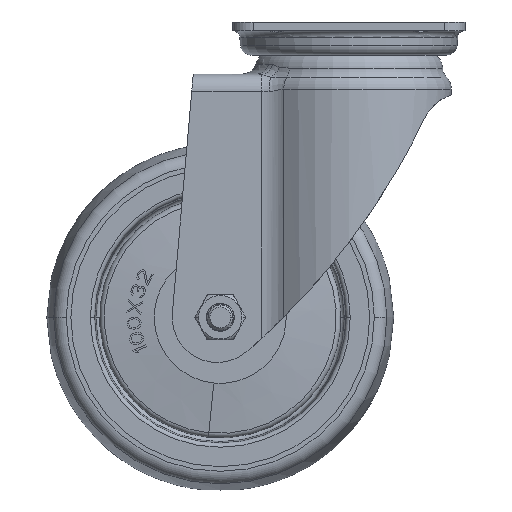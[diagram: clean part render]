
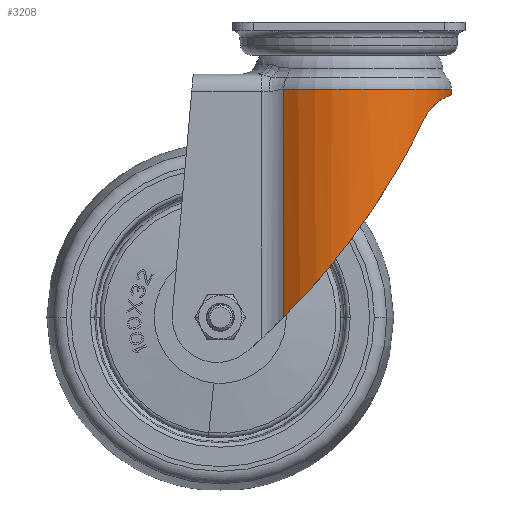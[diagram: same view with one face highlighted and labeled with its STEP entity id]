
A CAD part, front view. The second image highlights one B-rep face of the part: STEP entity #3208.
In plain terms, the highlighted cylindrical face has radius 29.5 mm (diameter 59 mm), a partial arc.
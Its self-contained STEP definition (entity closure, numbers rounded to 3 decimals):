
#2011=CARTESIAN_POINT('',(-21.775,-19.902,
-70.245));
#2012=CARTESIAN_POINT('',(-22.052,-19.599,
-70.824));
#2013=CARTESIAN_POINT('',(-22.676,-18.894,
-71.912));
#2014=CARTESIAN_POINT('',(-23.824,-17.435,
-73.372));
#2015=CARTESIAN_POINT('',(-24.995,-15.718,
-74.5));
#2016=CARTESIAN_POINT('',(-26.089,-13.827,
-75.334));
#2017=CARTESIAN_POINT('',(-27.008,-11.928,
-75.908));
#2018=CARTESIAN_POINT('',(-27.825,-9.892,
-76.337));
#2019=CARTESIAN_POINT('',(-28.561,-7.534,
-76.662));
#2020=CARTESIAN_POINT('',(-29.118,-4.968,
-76.873));
#2021=CARTESIAN_POINT('',(-29.436,-2.433,
-76.979));
#2022=CARTESIAN_POINT('',(-29.535,0.075,
-77.012));
#2023=CARTESIAN_POINT('',(-29.423,2.574,
-76.975));
#2024=CARTESIAN_POINT('',(-29.096,5.087,
-76.866));
#2025=CARTESIAN_POINT('',(-28.537,7.617,
-76.652));
#2026=CARTESIAN_POINT('',(-27.808,9.935,
-76.329));
#2027=CARTESIAN_POINT('',(-26.997,11.953,
-75.901));
#2028=CARTESIAN_POINT('',(-26.08,13.842,
-75.328));
#2029=CARTESIAN_POINT('',(-24.99,15.725,
-74.496));
#2030=CARTESIAN_POINT('',(-23.822,17.438,
-73.37));
#2031=CARTESIAN_POINT('',(-22.675,18.894,
-71.911));
#2032=CARTESIAN_POINT('',(-22.052,19.599,
-70.824));
#2033=CARTESIAN_POINT('',(-21.775,19.902,
-70.245));
#2035=CARTESIAN_POINT('',(0.,-29.5,
-34.531));
#2036=CARTESIAN_POINT('',(-0.973,-29.5,
-35.816));
#2037=CARTESIAN_POINT('',(-2.905,-29.411,
-38.421));
#2038=CARTESIAN_POINT('',(-5.985,-28.935,
-42.812));
#2039=CARTESIAN_POINT('',(-8.467,-28.292,
-46.542));
#2040=CARTESIAN_POINT('',(-10.761,-27.508,
-50.137));
#2041=CARTESIAN_POINT('',(-13.307,-26.383,
-54.324));
#2042=CARTESIAN_POINT('',(-16.016,-24.846,
-59.043));
#2043=CARTESIAN_POINT('',(-18.836,-22.805,
-64.28));
#2044=CARTESIAN_POINT('',(-20.797,-20.972,
-68.203));
#2045=CARTESIAN_POINT('',(-21.775,-19.902,
-70.245));
#2047=CARTESIAN_POINT('',(18.745,-22.778,
-13.039));
#2048=CARTESIAN_POINT('',(18.046,-23.354,
-13.738));
#2049=CARTESIAN_POINT('',(16.63,-24.413,
-15.172));
#2050=CARTESIAN_POINT('',(14.452,-25.758,
-17.445));
#2051=CARTESIAN_POINT('',(12.304,-26.845,
-19.756));
#2052=CARTESIAN_POINT('',(10.186,-27.717,
-22.106));
#2053=CARTESIAN_POINT('',(7.992,-28.429,
-24.616));
#2054=CARTESIAN_POINT('',(5.614,-28.999,
-27.429));
#2055=CARTESIAN_POINT('',(2.937,-29.398,
-30.721));
#2056=CARTESIAN_POINT('',(1.002,-29.5,
-33.209));
#2057=CARTESIAN_POINT('',(0.,-29.5,
-34.531));
#2059=DIRECTION('',(0.,0.,-1.));
#2060=VECTOR('',#2059,65.63);
#2061=CARTESIAN_POINT('',(18.745,-22.778,
-13.039));
#2062=LINE('',#2061,#2060);
#2063=DIRECTION('',(0.,0.,1.));
#2064=VECTOR('',#2063,65.63);
#2065=CARTESIAN_POINT('',(18.745,22.778,-78.67));
#2066=LINE('',#2065,#2064);
#2067=CARTESIAN_POINT('',(0.,29.5,
-34.531));
#2068=CARTESIAN_POINT('',(1.004,29.5,-33.205));
#2069=CARTESIAN_POINT('',(2.945,29.398,-30.711));
#2070=CARTESIAN_POINT('',(5.634,28.995,-27.404));
#2071=CARTESIAN_POINT('',(8.015,28.423,-24.59));
#2072=CARTESIAN_POINT('',(10.204,27.71,-22.085));
#2073=CARTESIAN_POINT('',(12.317,26.839,-19.742));
#2074=CARTESIAN_POINT('',(14.459,25.753,-17.437));
#2075=CARTESIAN_POINT('',(16.633,24.41,-15.169));
#2076=CARTESIAN_POINT('',(18.048,23.353,-13.736));
#2077=CARTESIAN_POINT('',(18.745,22.778,-13.039));
#2079=CARTESIAN_POINT('',(-21.775,19.902,
-70.245));
#2080=CARTESIAN_POINT('',(-20.795,20.975,
-68.198));
#2081=CARTESIAN_POINT('',(-18.829,22.811,
-64.266));
#2082=CARTESIAN_POINT('',(-16.002,24.855,
-59.017));
#2083=CARTESIAN_POINT('',(-13.288,26.394,
-54.291));
#2084=CARTESIAN_POINT('',(-10.728,27.52,
-50.085));
#2085=CARTESIAN_POINT('',(-8.436,28.303,
-46.494));
#2086=CARTESIAN_POINT('',(-5.863,28.961,
-42.632));
#2087=CARTESIAN_POINT('',(-2.836,29.415,
-38.328));
#2088=CARTESIAN_POINT('',(-0.944,29.5,
-35.777));
#2089=CARTESIAN_POINT('',(0.,29.5,
-34.531));
#2690=CARTESIAN_POINT('',(0.,0.,-78.67));
#2691=DIRECTION('',(0.,0.,1.));
#2692=DIRECTION('',(0.635,0.772,0.));
#2693=AXIS2_PLACEMENT_3D('',#2690,#2691,#2692);
#2743=CARTESIAN_POINT('',(18.745,22.778,-13.039));
#2754=CARTESIAN_POINT('',(18.745,22.778,-78.67));
#2993=CARTESIAN_POINT('',(18.745,-22.778,
-78.67));
#3004=CARTESIAN_POINT('',(18.745,-22.778,
-13.039));
#3076=VERTEX_POINT('',#2743);
#3077=VERTEX_POINT('',#3004);
#3090=VERTEX_POINT('',#2754);
#3091=VERTEX_POINT('',#2993);
#3177=VERTEX_POINT('',#2011);
#3178=VERTEX_POINT('',#2033);
#3179=VERTEX_POINT('',#2089);
#3184=VERTEX_POINT('',#2035);
#3185=CARTESIAN_POINT('',(0.,0.,4.475));
#3186=DIRECTION('',(0.,0.,-1.));
#3187=DIRECTION('',(1.,0.,0.));
#3188=AXIS2_PLACEMENT_3D('',#3185,#3186,#3187);
#3189=CYLINDRICAL_SURFACE('',#3188,29.5);
#3191=ORIENTED_EDGE('',*,*,#3190,.F.);
#3193=ORIENTED_EDGE('',*,*,#3192,.F.);
#3195=ORIENTED_EDGE('',*,*,#3194,.F.);
#3197=ORIENTED_EDGE('',*,*,#3196,.T.);
#3199=ORIENTED_EDGE('',*,*,#3198,.F.);
#3201=ORIENTED_EDGE('',*,*,#3200,.T.);
#3203=ORIENTED_EDGE('',*,*,#3202,.F.);
#3205=ORIENTED_EDGE('',*,*,#3204,.F.);
#3206=EDGE_LOOP('',(#3191,#3193,#3195,#3197,#3199,#3201,#3203,#3205));
#3207=FACE_OUTER_BOUND('',#3206,.F.);
#2034=B_SPLINE_CURVE_WITH_KNOTS('',3,(#2011,#2012,#2013,#2014,#2015,#2016,#2017,
#2018,#2019,#2020,#2021,#2022,#2023,#2024,#2025,#2026,#2027,#2028,#2029,#2030,
#2031,#2032,#2033),.UNSPECIFIED.,.F.,.F.,(4,1,1,1,1,1,1,1,1,1,1,1,1,1,1,1,1,1,1,
1,4),(0.,0.05,0.1,0.15,0.2,0.25,0.3,0.35,0.4,0.45,0.5,
0.55,0.6,0.65,0.7,0.75,0.8,0.85,0.9,0.95,1.),.UNSPECIFIED.);
#2046=B_SPLINE_CURVE_WITH_KNOTS('',3,(#2035,#2036,#2037,#2038,#2039,#2040,#2041,
#2042,#2043,#2044,#2045),.UNSPECIFIED.,.F.,.F.,(4,1,1,1,1,1,1,1,4),(0.,
0.125,0.25,0.375,0.5,0.625,0.75,0.875,1.),.UNSPECIFIED.);
#2058=B_SPLINE_CURVE_WITH_KNOTS('',3,(#2047,#2048,#2049,#2050,#2051,#2052,#2053,
#2054,#2055,#2056,#2057),.UNSPECIFIED.,.F.,.F.,(4,1,1,1,1,1,1,1,4),(0.,
0.125,0.25,0.375,0.5,0.625,0.75,0.875,1.),.UNSPECIFIED.);
#2078=B_SPLINE_CURVE_WITH_KNOTS('',3,(#2067,#2068,#2069,#2070,#2071,#2072,#2073,
#2074,#2075,#2076,#2077),.UNSPECIFIED.,.F.,.F.,(4,1,1,1,1,1,1,1,4),(0.,
0.125,0.25,0.375,0.5,0.625,0.75,0.875,1.),.UNSPECIFIED.);
#2090=B_SPLINE_CURVE_WITH_KNOTS('',3,(#2079,#2080,#2081,#2082,#2083,#2084,#2085,
#2086,#2087,#2088,#2089),.UNSPECIFIED.,.F.,.F.,(4,1,1,1,1,1,1,1,4),(0.,
0.125,0.25,0.375,0.5,0.625,0.75,0.875,1.),.UNSPECIFIED.);
#2694=CIRCLE('',#2693,29.5);
#3190=EDGE_CURVE('',#3177,#3178,#2034,.T.);
#3192=EDGE_CURVE('',#3184,#3177,#2046,.T.);
#3194=EDGE_CURVE('',#3077,#3184,#2058,.T.);
#3196=EDGE_CURVE('',#3077,#3091,#2062,.T.);
#3198=EDGE_CURVE('',#3090,#3091,#2694,.T.);
#3200=EDGE_CURVE('',#3090,#3076,#2066,.T.);
#3202=EDGE_CURVE('',#3179,#3076,#2078,.T.);
#3204=EDGE_CURVE('',#3178,#3179,#2090,.T.);
#3208=ADVANCED_FACE('',(#3207),#3189,.T.);
